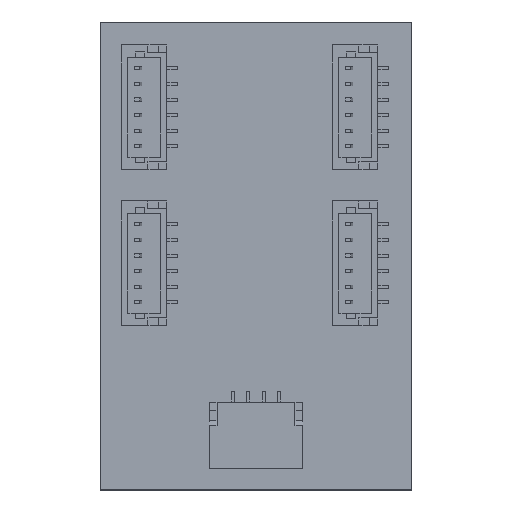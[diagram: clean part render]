
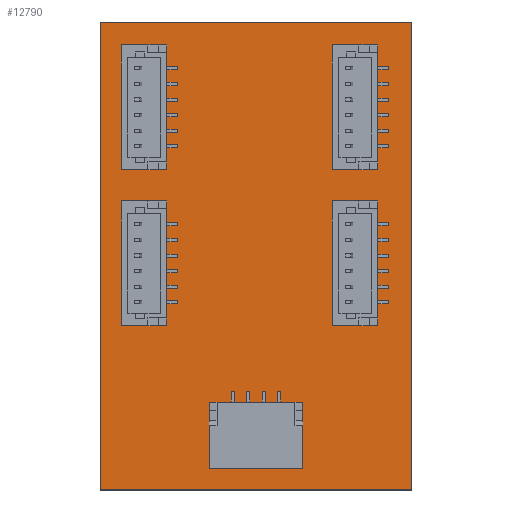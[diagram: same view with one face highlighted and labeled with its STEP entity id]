
A CAD part, top view. The second image highlights one B-rep face of the part: STEP entity #12790.
In plain terms, the highlighted planar face has unit normal (0, 0, 1).
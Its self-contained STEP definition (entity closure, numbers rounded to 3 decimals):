
#12661 = VERTEX_POINT('',#12662);
#12662 = CARTESIAN_POINT('',(20.,-30.,1.11));
#12668 = EDGE_CURVE('',#12661,#12669,#12671,.T.);
#12669 = VERTEX_POINT('',#12670);
#12670 = CARTESIAN_POINT('',(0.,-30.,1.11));
#12671 = LINE('',#12672,#12673);
#12672 = CARTESIAN_POINT('',(20.,-30.,1.11));
#12673 = VECTOR('',#12674,1.);
#12674 = DIRECTION('',(-1.,0.,0.));
#12699 = EDGE_CURVE('',#12669,#12700,#12702,.T.);
#12700 = VERTEX_POINT('',#12701);
#12701 = CARTESIAN_POINT('',(0.,0.,1.11));
#12702 = LINE('',#12703,#12704);
#12703 = CARTESIAN_POINT('',(0.,-30.,1.11));
#12704 = VECTOR('',#12705,1.);
#12705 = DIRECTION('',(0.,1.,0.));
#12730 = EDGE_CURVE('',#12700,#12731,#12733,.T.);
#12731 = VERTEX_POINT('',#12732);
#12732 = CARTESIAN_POINT('',(20.,0.,1.11));
#12733 = LINE('',#12734,#12735);
#12734 = CARTESIAN_POINT('',(0.,0.,1.11));
#12735 = VECTOR('',#12736,1.);
#12736 = DIRECTION('',(1.,0.,0.));
#12761 = EDGE_CURVE('',#12731,#12661,#12762,.T.);
#12762 = LINE('',#12763,#12764);
#12763 = CARTESIAN_POINT('',(20.,0.,1.11));
#12764 = VECTOR('',#12765,1.);
#12765 = DIRECTION('',(0.,-1.,0.));
#12790 = ADVANCED_FACE('',(#12791),#12797,.T.);
#12791 = FACE_BOUND('',#12792,.F.);
#12792 = EDGE_LOOP('',(#12793,#12794,#12795,#12796));
#12793 = ORIENTED_EDGE('',*,*,#12668,.T.);
#12794 = ORIENTED_EDGE('',*,*,#12699,.T.);
#12795 = ORIENTED_EDGE('',*,*,#12730,.T.);
#12796 = ORIENTED_EDGE('',*,*,#12761,.T.);
#12797 = PLANE('',#12798);
#12798 = AXIS2_PLACEMENT_3D('',#12799,#12800,#12801);
#12799 = CARTESIAN_POINT('',(0.,0.,1.11));
#12800 = DIRECTION('',(0.,0.,1.));
#12801 = DIRECTION('',(1.,0.,-0.));
